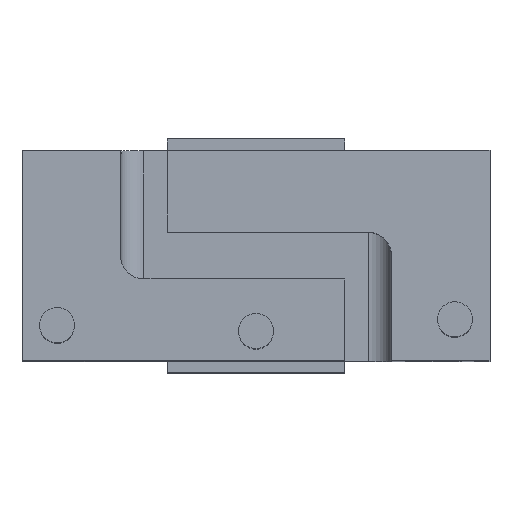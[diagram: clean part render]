
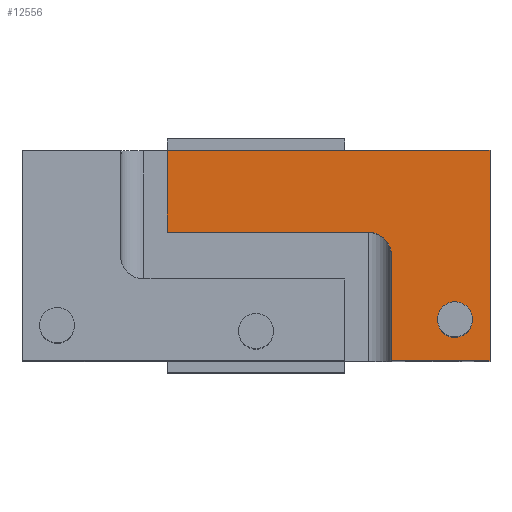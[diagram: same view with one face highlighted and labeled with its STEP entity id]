
A CAD part, top view. The second image highlights one B-rep face of the part: STEP entity #12556.
In plain terms, the highlighted planar face has unit normal (0, 0, 1).
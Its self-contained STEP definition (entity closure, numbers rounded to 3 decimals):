
#268 = VERTEX_POINT ( 'NONE', #19978 ) ;
#801 = ORIENTED_EDGE ( 'NONE', *, *, #6892, .F. ) ;
#857 = DIRECTION ( 'NONE',  ( -1., 0., 0. ) ) ;
#1638 = CARTESIAN_POINT ( 'NONE',  ( 9.575, 0., 20. ) ) ;
#1884 = CARTESIAN_POINT ( 'NONE',  ( 11.575, 0., 20. ) ) ;
#2696 = DIRECTION ( 'NONE',  ( 1., 0., 0. ) ) ;
#3241 = CARTESIAN_POINT ( 'NONE',  ( -7.6, 2., 20. ) ) ;
#4102 = CARTESIAN_POINT ( 'NONE',  ( -7.6, 2., 20. ) ) ;
#4790 = CARTESIAN_POINT ( 'NONE',  ( 0., -9., 20. ) ) ;
#5040 = ORIENTED_EDGE ( 'NONE', *, *, #16828, .F. ) ;
#5190 = ORIENTED_EDGE ( 'NONE', *, *, #7245, .T. ) ;
#5933 = VERTEX_POINT ( 'NONE', #12530 ) ;
#6212 = EDGE_CURVE ( 'NONE', #5933, #11021, #6698, .T. ) ;
#6258 = VECTOR ( 'NONE', #8401, 1000. ) ;
#6359 = ORIENTED_EDGE ( 'NONE', *, *, #23409, .F. ) ;
#6698 = LINE ( 'NONE', #4102, #19846 ) ;
#6892 = EDGE_CURVE ( 'NONE', #22283, #268, #6949, .T. ) ;
#6949 = LINE ( 'NONE', #16254, #25539 ) ;
#7141 = PLANE ( 'NONE',  #21729 ) ;
#7245 = EDGE_CURVE ( 'NONE', #7290, #268, #13488, .T. ) ;
#7290 = VERTEX_POINT ( 'NONE', #16220 ) ;
#8024 = CARTESIAN_POINT ( 'NONE',  ( 0., 9., 20. ) ) ;
#8401 = DIRECTION ( 'NONE',  ( 0., 1., 0. ) ) ;
#11021 = VERTEX_POINT ( 'NONE', #26127 ) ;
#12530 = CARTESIAN_POINT ( 'NONE',  ( -7.6, 2., 20. ) ) ;
#12556 = ADVANCED_FACE ( 'NONE', ( #26061 ), #7141, .T. ) ;
#12989 = LINE ( 'NONE', #29458, #6258 ) ;
#13128 = DIRECTION ( 'NONE',  ( 0., 1., 0. ) ) ;
#13488 = LINE ( 'NONE', #4790, #17275 ) ;
#15216 = ORIENTED_EDGE ( 'NONE', *, *, #6212, .F. ) ;
#16090 = EDGE_CURVE ( 'NONE', #22283, #11021, #22209, .T. ) ;
#16220 = CARTESIAN_POINT ( 'NONE',  ( 11.575, -9., 20. ) ) ;
#16254 = CARTESIAN_POINT ( 'NONE',  ( 20., 10., 20. ) ) ;
#16828 = EDGE_CURVE ( 'NONE', #25556, #25054, #28131, .T. ) ;
#16858 = CARTESIAN_POINT ( 'NONE',  ( 9.575, 2., 20. ) ) ;
#17275 = VECTOR ( 'NONE', #18658, 1000. ) ;
#17589 = VECTOR ( 'NONE', #24302, 1000. ) ;
#17777 = ORIENTED_EDGE ( 'NONE', *, *, #20431, .F. ) ;
#18658 = DIRECTION ( 'NONE',  ( 1., 0., 0. ) ) ;
#19846 = VECTOR ( 'NONE', #13128, 1000. ) ;
#19978 = CARTESIAN_POINT ( 'NONE',  ( 20., -9., 20. ) ) ;
#20431 = EDGE_CURVE ( 'NONE', #7290, #25556, #12989, .T. ) ;
#20855 = DIRECTION ( 'NONE',  ( 0., 0., 1. ) ) ;
#20921 = ORIENTED_EDGE ( 'NONE', *, *, #16090, .T. ) ;
#21618 = DIRECTION ( 'NONE',  ( 0., 0., 1. ) ) ;
#21729 = AXIS2_PLACEMENT_3D ( 'NONE', #23304, #21618, #2696 ) ;
#22209 = LINE ( 'NONE', #8024, #22758 ) ;
#22283 = VERTEX_POINT ( 'NONE', #27811 ) ;
#22758 = VECTOR ( 'NONE', #857, 1000. ) ;
#23138 = DIRECTION ( 'NONE',  ( 1., 0., 0. ) ) ;
#23304 = CARTESIAN_POINT ( 'NONE',  ( 0., 10., 20. ) ) ;
#23409 = EDGE_CURVE ( 'NONE', #25054, #5933, #24600, .T. ) ;
#24302 = DIRECTION ( 'NONE',  ( -1., 0., 0. ) ) ;
#24600 = LINE ( 'NONE', #3241, #17589 ) ;
#25054 = VERTEX_POINT ( 'NONE', #16858 ) ;
#25539 = VECTOR ( 'NONE', #25560, 1000. ) ;
#25556 = VERTEX_POINT ( 'NONE', #1884 ) ;
#25560 = DIRECTION ( 'NONE',  ( 0., -1., 0. ) ) ;
#25596 = EDGE_LOOP ( 'NONE', ( #15216, #6359, #5040, #17777, #5190, #801, #20921 ) ) ;
#26061 = FACE_OUTER_BOUND ( 'NONE', #25596, .T. ) ;
#26127 = CARTESIAN_POINT ( 'NONE',  ( -7.6, 9., 20. ) ) ;
#26163 = AXIS2_PLACEMENT_3D ( 'NONE', #1638, #20855, #23138 ) ;
#27811 = CARTESIAN_POINT ( 'NONE',  ( 20., 9., 20. ) ) ;
#28131 = CIRCLE ( 'NONE', #26163, 2. ) ;
#29458 = CARTESIAN_POINT ( 'NONE',  ( 11.575, -11.886, 20. ) ) ;
